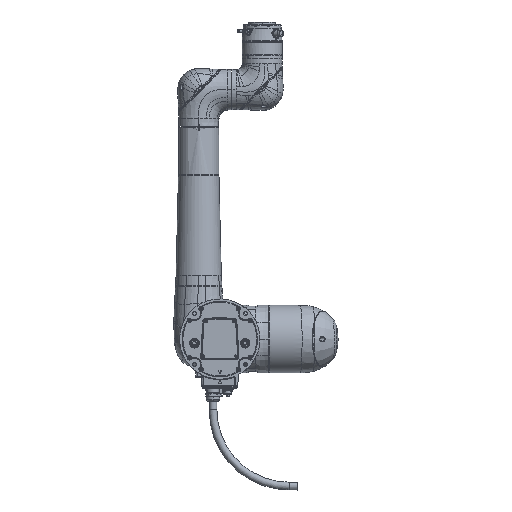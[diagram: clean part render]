
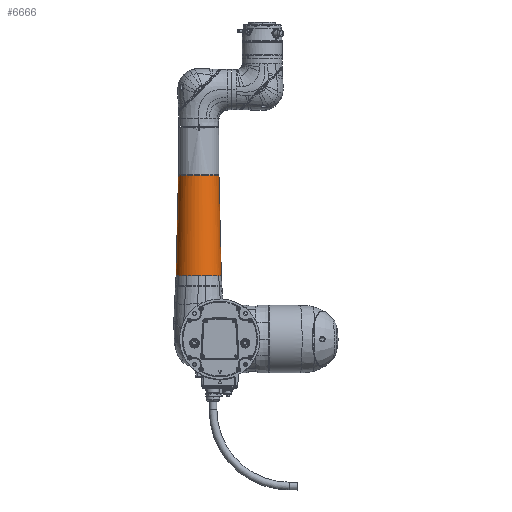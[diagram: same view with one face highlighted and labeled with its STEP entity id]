
A CAD part, front view. The second image highlights one B-rep face of the part: STEP entity #6666.
In plain terms, the highlighted face is a revolution surface.
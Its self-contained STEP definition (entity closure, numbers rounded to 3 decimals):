
#38=SURFACE_OF_REVOLUTION('',#14247,#50);
#50=AXIS1_PLACEMENT('',#120190,#174127);
#6666=ADVANCED_FACE('1300_MODEL-C004',(#10843),#38,.T.);
#10843=FACE_OUTER_BOUND('',#64521,.T.);
#14247=B_SPLINE_CURVE_WITH_KNOTS('profile',3,(#120183,#120184,#120185,#120186,
#120187,#120188,#120189),.UNSPECIFIED.,.U.,.U.,(4,1,1,1,4),(0.,0.222,
0.599,0.998,1.),.UNSPECIFIED.);
#14248=B_SPLINE_CURVE_WITH_KNOTS('',3,(#120191,#120192,#120193,#120194,
#120195,#119659),.UNSPECIFIED.,.F.,.U.,(4,1,1,4),(0.,0.221,0.6,
1.),.UNSPECIFIED.);
#14249=B_SPLINE_CURVE_WITH_KNOTS('',3,(#120196,#120197,#120198,#120199,
#120200,#119949),.UNSPECIFIED.,.F.,.U.,(4,1,1,4),(0.,0.221,0.6,
1.),.UNSPECIFIED.);
#18178=CIRCLE('',#171675,53.5);
#18185=CIRCLE('',#171682,53.5);
#18186=CIRCLE('',#171683,53.5);
#18187=CIRCLE('',#171684,53.5);
#18188=CIRCLE('',#171685,53.5);
#18189=CIRCLE('',#171686,53.5);
#18190=CIRCLE('',#171687,47.942);
#31235=ORIENTED_EDGE('',*,*,#45392,.T.);
#31236=ORIENTED_EDGE('',*,*,#45369,.T.);
#31237=ORIENTED_EDGE('',*,*,#45391,.T.);
#31238=ORIENTED_EDGE('',*,*,#45389,.T.);
#31239=ORIENTED_EDGE('',*,*,#45387,.T.);
#31240=ORIENTED_EDGE('',*,*,#45385,.F.);
#31241=ORIENTED_EDGE('',*,*,#45383,.T.);
#31242=ORIENTED_EDGE('',*,*,#45393,.F.);
#31243=ORIENTED_EDGE('',*,*,#45394,.F.);
#45369=EDGE_CURVE('239',#59444,#59443,#18178,.T.);
#45383=EDGE_CURVE('253',#59451,#59450,#18185,.T.);
#45385=EDGE_CURVE('255',#59451,#59452,#18186,.T.);
#45387=EDGE_CURVE('257',#59453,#59452,#18187,.T.);
#45389=EDGE_CURVE('259',#59454,#59453,#18188,.T.);
#45391=EDGE_CURVE('261',#59443,#59454,#18189,.T.);
#45392=EDGE_CURVE('264',#59455,#59444,#14248,.T.);
#45393=EDGE_CURVE('262',#59456,#59450,#14249,.T.);
#45394=EDGE_CURVE('263',#59455,#59456,#18190,.T.);
#59443=VERTEX_POINT('160',#119655);
#59444=VERTEX_POINT('161',#119659);
#59450=VERTEX_POINT('167',#119949);
#59451=VERTEX_POINT('168',#119999);
#59452=VERTEX_POINT('169',#120053);
#59453=VERTEX_POINT('170',#120082);
#59454=VERTEX_POINT('171',#120127);
#59455=VERTEX_POINT('173',#120191);
#59456=VERTEX_POINT('172',#120196);
#64521=EDGE_LOOP('',(#31235,#31236,#31237,#31238,#31239,#31240,#31241,#31242,
#31243));
#119655=CARTESIAN_POINT('',(-97.3,905.,150.));
#119659=CARTESIAN_POINT('',(-103.5,930.,150.));
#119660=CARTESIAN_POINT('',(-50.,930.,150.));
#119949=CARTESIAN_POINT('',(3.5,930.,150.));
#119999=CARTESIAN_POINT('',(-2.7,905.,150.));
#120000=CARTESIAN_POINT('',(-50.,930.,150.));
#120053=CARTESIAN_POINT('',(-34.,878.949,150.));
#120054=CARTESIAN_POINT('',(-50.,930.,150.));
#120082=CARTESIAN_POINT('',(-50.094,876.5,150.));
#120083=CARTESIAN_POINT('',(-50.,930.,150.));
#120127=CARTESIAN_POINT('',(-78.22,884.548,150.));
#120128=CARTESIAN_POINT('',(-50.,930.,150.));
#120182=CARTESIAN_POINT('',(-50.,930.,150.));
#120183=CARTESIAN_POINT('',(-2.064,930.476,388.004));
#120184=CARTESIAN_POINT('',(-1.927,930.477,370.336));
#120185=CARTESIAN_POINT('',(-1.472,930.481,322.665));
#120186=CARTESIAN_POINT('',(-0.259,930.493,243.309));
#120187=CARTESIAN_POINT('',(1.884,930.515,181.486));
#120188=CARTESIAN_POINT('',(3.514,930.531,149.667));
#120189=CARTESIAN_POINT('',(3.523,930.531,149.501));
#120190=CARTESIAN_POINT('',(-50.,930.,388.004));
#120191=CARTESIAN_POINT('',(-97.942,930.,387.504));
#120192=CARTESIAN_POINT('',(-98.079,930.,370.002));
#120193=CARTESIAN_POINT('',(-98.532,930.,322.498));
#120194=CARTESIAN_POINT('',(-99.743,930.,243.309));
#120195=CARTESIAN_POINT('',(-101.881,930.,181.653));
#120196=CARTESIAN_POINT('',(-2.058,930.,387.504));
#120197=CARTESIAN_POINT('',(-1.921,930.,370.002));
#120198=CARTESIAN_POINT('',(-1.468,930.,322.498));
#120199=CARTESIAN_POINT('',(-0.257,930.,243.309));
#120200=CARTESIAN_POINT('',(1.881,930.,181.653));
#120201=CARTESIAN_POINT('',(-50.,930.,387.504));
#171675=AXIS2_PLACEMENT_3D('',#119660,#174116,#179245);
#171682=AXIS2_PLACEMENT_3D('',#120000,#174116,#179251);
#171683=AXIS2_PLACEMENT_3D('',#120054,#174127,#179252);
#171684=AXIS2_PLACEMENT_3D('',#120083,#174116,#179253);
#171685=AXIS2_PLACEMENT_3D('',#120128,#174116,#179254);
#171686=AXIS2_PLACEMENT_3D('',#120182,#174116,#179255);
#171687=AXIS2_PLACEMENT_3D('',#120201,#174116,#174126);
#174116=DIRECTION('',(0.,0.,1.));
#174126=DIRECTION('',(-1.,0.,0.));
#174127=DIRECTION('',(0.,0.,-1.));
#179245=DIRECTION('',(-1.,0.,0.));
#179251=DIRECTION('',(0.884,-0.467,0.));
#179252=DIRECTION('',(0.884,-0.467,0.));
#179253=DIRECTION('',(-0.002,-1.,0.));
#179254=DIRECTION('',(-0.527,-0.85,0.));
#179255=DIRECTION('',(-0.884,-0.467,0.));
